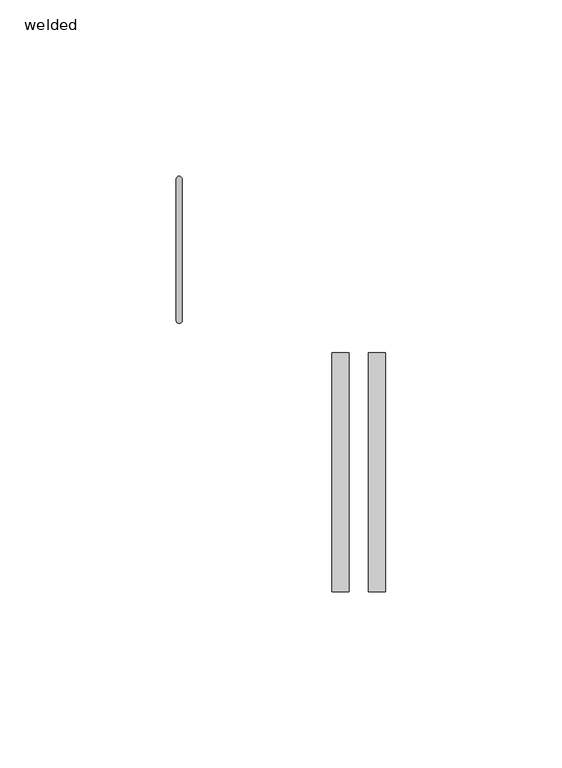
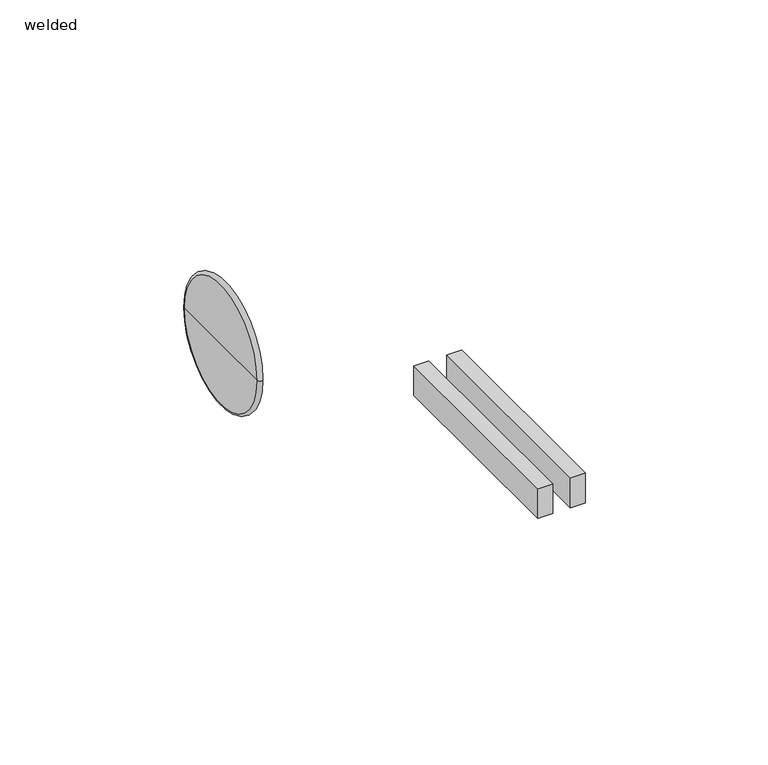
"""IFC4 building model written with IfcOpenShell, lengths in millimetres: pipe fitting geometry, NLRS_52_PIF_UN_HDPE weld_Akatherm : welded."""

import ifcopenshell
import ifcopenshell.guid

model = None  # the IFC model being written
_history = None  # IfcOwnerHistory: only IFC2X3 demands one
_inside = {}  # id of a spatial element -> (the spatial element, [elements in it])
_under = {}  # id of a project, library or spatial element -> (it, [spatial elements below it])
_declared = {}  # id of a project -> (the project, [libraries it declares])
_typed = {}  # id of a type object -> (the type object, [elements of that type])
_made_of = {}  # id of a material, layer set ... -> (it, [elements and type objects made of it])


def new_model(schema):
    """Start an empty IFC model of exactly this schema.

    Asked for "IFC4X3", IfcOpenShell would pick the latest addendum, in which some entities
    have other attributes; the version numbers below select the first issue.
    IFC2X3 requires an IfcOwnerHistory on every rooted entity: one is made here for all.
    """
    global model, _history
    if schema == "IFC4X3":
        model = ifcopenshell.file(schema_version=(4, 3, 0, 0))
    else:
        model = ifcopenshell.file(schema=schema)
    _inside.clear()
    _under.clear()
    _declared.clear()
    _typed.clear()
    _made_of.clear()
    _history = None
    if model.schema == "IFC2X3":
        org = make("IfcOrganization", Name="unknown")
        user = make(
            "IfcPersonAndOrganization",
            ThePerson=make("IfcPerson", FamilyName="unknown"),
            TheOrganization=org,
        )
        app = make(
            "IfcApplication",
            ApplicationDeveloper=org,
            Version="unknown",
            ApplicationFullName="unknown",
            ApplicationIdentifier="unknown",
        )
        _history = make(
            "IfcOwnerHistory",
            OwningUser=user,
            OwningApplication=app,
            ChangeAction="ADDED",
            CreationDate=0,
        )
    return model


def make(cls, **values):
    """One entity of the class cls with the attributes given. An attribute that is None is left unset."""
    return model.create_entity(
        cls, **{name: value for name, value in values.items() if value is not None}
    )


def rooted(cls, **values):
    """An entity with a GlobalId (a new one), such as an element, a storey or a relation."""
    return make(cls, GlobalId=ifcopenshell.guid.new(), OwnerHistory=_history, **values)


def si_unit(unit_type, name, prefix=None):
    """IfcSIUnit, for example si_unit("LENGTHUNIT", "METRE", prefix="MILLI")."""
    return make("IfcSIUnit", UnitType=unit_type, Prefix=prefix, Name=name)


def assignment(units):
    """IfcUnitAssignment: the units of a project."""
    return None if units is None else make("IfcUnitAssignment", Units=units)


def point(xyz):
    """IfcCartesianPoint."""
    return None if xyz is None else make("IfcCartesianPoint", Coordinates=xyz)


def direction(xyz):
    """IfcDirection."""
    return None if xyz is None else make("IfcDirection", DirectionRatios=xyz)


def frame(location, z_axis=None, x_axis=None):
    """IfcAxis2Placement3D, a coordinate frame: its origin and axes. An axis left out is left unset."""
    return make(
        "IfcAxis2Placement3D",
        Location=point(location),
        Axis=direction(z_axis),
        RefDirection=direction(x_axis),
    )


def origin():
    """The frame at (0, 0, 0) with its axes left unset."""
    return frame((0.0, 0.0, 0.0))


def place(relative_to, where):
    """IfcLocalPlacement: puts the frame where relative to a parent placement (None: the world)."""
    return make(
        "IfcLocalPlacement", PlacementRelTo=relative_to, RelativePlacement=where
    )


def context(
    kind, dimensions, precision=None, world=None, true_north=None, identifier=None
):
    """IfcGeometricRepresentationContext, for example the 3D "Model" context."""
    return make(
        "IfcGeometricRepresentationContext",
        ContextIdentifier=identifier,
        ContextType=kind,
        CoordinateSpaceDimension=dimensions,
        Precision=precision,
        WorldCoordinateSystem=world,
        TrueNorth=true_north,
    )


def project(units=None, contexts=None):
    """IfcProject with its units and contexts."""
    return rooted(
        "IfcProject",
        Name="project",
        RepresentationContexts=contexts,
        UnitsInContext=assignment(units),
    )


def spatial(cls, under=None, at=None, **own):
    """A site, building, storey or space (cls), placed at a placement, below another one or the project."""
    s = rooted(cls, ObjectPlacement=at, **own)
    if under is not None:
        _under.setdefault(under.id(), (under, []))[1].append(s)
    return s


def polyline(points):
    """IfcPolyline through the points."""
    return make("IfcPolyline", Points=[point(p) for p in points])


def circle_curve(where, radius):
    """IfcCircle in the frame where."""
    return make("IfcCircle", Position=where, Radius=radius)


def ellipse_curve(where, semi_axis1, semi_axis2):
    """IfcEllipse in the frame where."""
    return make(
        "IfcEllipse", Position=where, SemiAxis1=semi_axis1, SemiAxis2=semi_axis2
    )


def trimmed(basis, trim1, trim2, sense, master):
    """IfcTrimmedCurve: the piece of a basis curve between two trims."""
    return make(
        "IfcTrimmedCurve",
        BasisCurve=basis,
        Trim1=trim1,
        Trim2=trim2,
        SenseAgreement=sense,
        MasterRepresentation=master,
    )


def outline(outer, holes=None, kind="AREA"):
    """IfcArbitraryClosedProfileDef: a profile drawn as a closed curve; with holes, ...WithVoids."""
    if holes is None:
        return make("IfcArbitraryClosedProfileDef", ProfileType=kind, OuterCurve=outer)
    return make(
        "IfcArbitraryProfileDefWithVoids",
        ProfileType=kind,
        OuterCurve=outer,
        InnerCurves=holes,
    )


def extrude(swept, where, along, depth):
    """IfcExtrudedAreaSolid: the profile swept, set in the frame where, extruded along a direction by depth."""
    return make(
        "IfcExtrudedAreaSolid",
        SweptArea=swept,
        Position=where,
        ExtrudedDirection=direction(along),
        Depth=depth,
    )


def shape(context_of_items, identifier, shape_type, items):
    """IfcShapeRepresentation: the items that make up one representation, for example the "Body"."""
    return make(
        "IfcShapeRepresentation",
        ContextOfItems=context_of_items,
        RepresentationIdentifier=identifier,
        RepresentationType=shape_type,
        Items=items,
    )


def source(mapping_origin, context_of_items, identifier, shape_type, items):
    """IfcRepresentationMap: a shape defined once, which mapped items show again and again."""
    return make(
        "IfcRepresentationMap",
        MappingOrigin=mapping_origin,
        MappedRepresentation=shape(context_of_items, identifier, shape_type, items),
    )


def transform(
    local_origin,
    x_axis=None,
    y_axis=None,
    z_axis=None,
    scale=None,
    scale2=None,
    scale3=None,
    uniform=True,
):
    """IfcCartesianTransformationOperator3D, or its non-uniform kind. x_axis, y_axis, z_axis: its Axis1, 2, 3."""
    if uniform:
        return make(
            "IfcCartesianTransformationOperator3D",
            Axis1=direction(x_axis),
            Axis2=direction(y_axis),
            LocalOrigin=point(local_origin),
            Scale=scale,
            Axis3=direction(z_axis),
        )
    return make(
        "IfcCartesianTransformationOperator3DnonUniform",
        Axis1=direction(x_axis),
        Axis2=direction(y_axis),
        LocalOrigin=point(local_origin),
        Scale=scale,
        Axis3=direction(z_axis),
        Scale2=scale2,
        Scale3=scale3,
    )


def mapped(mapping_source, mapping_target):
    """IfcMappedItem: shows the shape of a source again, moved by a transform."""
    return make(
        "IfcMappedItem", MappingSource=mapping_source, MappingTarget=mapping_target
    )


def made_of(thing, what):
    """Note that an element or type object is made of a material, layer set ...; save() writes the relation."""
    if what is not None:
        _made_of.setdefault(what.id(), (what, []))[1].append(thing)
    return thing


def element(
    cls,
    number,
    at=None,
    inside=None,
    cuts=None,
    type_object=None,
    material=None,
    context=None,
    identifier="Body",
    shape_type=None,
    held_by="IfcProductDefinitionShape",
    body=None,
    shapes=None,
    **own,
):
    """One element of the class cls, such as IfcWall. Its Tag is "e" and its number.

    at: its placement. inside: the storey or other place that contains it. cuts: it is an
    opening in that element (IfcRelVoidsElement). A single representation is given by context,
    identifier, shape_type and body (its items); several are given by shapes. held_by: the class
    of the entity that holds the representations. save() writes the other relations.
    """
    e = rooted(cls, Tag="e%d" % number, ObjectPlacement=at, **own)
    if body is not None:
        shapes = [shape(context, identifier, shape_type, body)]
    if shapes is not None:
        e.Representation = make(held_by, Representations=shapes)
    if inside is not None:
        _inside.setdefault(inside.id(), (inside, []))[1].append(e)
    if cuts is not None:
        rooted(
            "IfcRelVoidsElement", RelatingBuildingElement=cuts, RelatedOpeningElement=e
        )
    if type_object is not None:
        _typed.setdefault(type_object.id(), (type_object, []))[1].append(e)
    return made_of(e, material)


def aggregate(whole, parts):
    """IfcRelAggregates: a whole, such as a stair, and the parts it consists of."""
    return rooted("IfcRelAggregates", RelatingObject=whole, RelatedObjects=parts)


def save(model, path):
    """Write the relations noted so far, then the file.

    IfcRelAggregates (storeys below a building ...), IfcRelContainedInSpatialStructure (elements
    in a storey), IfcRelDefinesByType, IfcRelAssociatesMaterial and IfcRelDeclares: one each for
    every whole, place, type object, material and project.
    """
    for whole, parts in _under.values():
        aggregate(whole, parts)
    for where, things in _inside.values():
        rooted(
            "IfcRelContainedInSpatialStructure",
            RelatedElements=things,
            RelatingStructure=where,
        )
    for kind, things in _typed.values():
        rooted("IfcRelDefinesByType", RelatedObjects=things, RelatingType=kind)
    for what, things in _made_of.values():
        rooted("IfcRelAssociatesMaterial", RelatedObjects=things, RelatingMaterial=what)
    for by, libraries in _declared.values():
        rooted("IfcRelDeclares", RelatingContext=by, RelatedDefinitions=libraries)
    model.write(path)


def plane_surface(at):
    """IfcPlane: the flat surface through the origin of the frame at, square to its z axis."""
    return make("IfcPlane", Position=at)


def revolved_surface(curve, axis_point, axis_direction):
    """IfcSurfaceOfRevolution: the curve turned about the line through axis_point along axis_direction."""
    return make(
        "IfcSurfaceOfRevolution",
        SweptCurve=make("IfcArbitraryOpenProfileDef", ProfileType="CURVE", Curve=curve),
        AxisPosition=make("IfcAxis1Placement", Location=point(axis_point), Axis=direction(axis_direction)),
    )


def advanced_brep(points, edges, surfaces, faces):
    """IfcAdvancedBrep: a solid bounded by faces that lie on surfaces and meet in shared edges.

    An edge is (start, end): straight between two places in points (the first is 0);
    or (start, end, curve); or (start, end, curve, False) where it runs against its curve.
    A face is (place in surfaces, loops), or (place, loops, False) where it looks against
    its surface's normal. A loop lists edges by number (the first is 1), with a minus sign
    where the edge is run from its end to its start. The first loop is the outer one.
    """
    corners = [point(p) for p in points]
    vertices = [make("IfcVertexPoint", VertexGeometry=c) for c in corners]
    made = []
    for start, end, *more in edges:
        made.append(
            make(
                "IfcEdgeCurve",
                EdgeStart=vertices[start],
                EdgeEnd=vertices[end],
                EdgeGeometry=more[0] if more else make("IfcPolyline", Points=[corners[start], corners[end]]),
                SameSense=more[1] if len(more) > 1 else True,
            )
        )
    hull = []
    for where, loops, *sense in faces:
        bounds = []
        for j, loop in enumerate(loops):
            ring = [make("IfcOrientedEdge", EdgeElement=made[abs(k) - 1], Orientation=k > 0) for k in loop]
            bounds.append(
                make(
                    "IfcFaceOuterBound" if j == 0 else "IfcFaceBound",
                    Bound=make("IfcEdgeLoop", EdgeList=ring),
                    Orientation=True,
                )
            )
        hull.append(make("IfcAdvancedFace", Bounds=bounds, FaceSurface=surfaces[where], SameSense=sense[0] if sense else True))
    return make("IfcAdvancedBrep", Outer=make("IfcClosedShell", CfsFaces=hull))


def welded_63566782(model_context):
    return source(origin(), model_context, "Body", "SolidModel", [
        extrude(outline(polyline([(42.5311847, -96.9421922), (42.5311847, -29.143993), (47.3087456, -29.143993), (47.3087456, -96.9421922), (42.5311847, -96.9421922)])), frame((0.0, 0.0, -15.0), z_axis=(0.0, 0.0, 1.0), x_axis=(1.0, 0.0, 0.0)), (0.0, 0.0, 1.0), 10.0),
        extrude(outline(polyline([(52.9005519, -96.9421922), (52.9005519, -29.143993), (57.6781127, -29.143993), (57.6781127, -96.9421922), (52.9005519, -96.9421922)])), frame((0.0, 0.0, -15.0), z_axis=(0.0, 0.0, 1.0), x_axis=(1.0, 0.0, 0.0)), (0.0, 0.0, 1.0), 10.0),
        advanced_brep(
        [(-1.7, -20.0, 0.0), (-1.7, 20.0, 0.0), (0.0, 20.0, 0.0), (0.0, -20.0, 0.0), (-1.7, 0.0, 0.0), (0.0, 0.0, 0.0)],
        [
            (0, 1, circle_curve(frame((-1.7, 0.0, 0.0), z_axis=(1.0, 0.0, 0.0), x_axis=(0.0, 1.0, 0.0)), 20.0)),
            (1, 2, circle_curve(frame((-0.85, 20.0, 0.0), z_axis=(0.0, 0.0, -1.0), x_axis=(1.0, 0.0, 0.0)), 0.85)),
            (2, 3, circle_curve(frame((0.0, 0.0, 0.0), z_axis=(-1.0, 0.0, 0.0), x_axis=(0.0, 1.0, 0.0)), 20.0)),
            (3, 0, circle_curve(frame((-0.85, -20.0, 0.0), z_axis=(0.0, 0.0, -1.0), x_axis=(1.0, 0.0, 0.0)), 0.85)),
            (1, 0, circle_curve(frame((-1.7, 0.0, 0.0), z_axis=(1.0, 0.0, 0.0), x_axis=(0.0, 1.0, 0.0)), 20.0)),
            (3, 2, circle_curve(frame((0.0, 0.0, 0.0), z_axis=(-1.0, 0.0, 0.0), x_axis=(0.0, 1.0, 0.0)), 20.0)),
            (4, 1),
            (0, 4),
            (2, 5),
            (5, 3),
        ],
        [
            revolved_surface(trimmed(ellipse_curve(frame((-0.85, 20.0, 0.0), z_axis=(0.0, 0.0, 1.0), x_axis=(1.0, 0.0, 0.0)), 0.85, 0.85), [point((0.0, 20.0, 0.0))], [point((-1.7, 20.0, 0.0))], True, "CARTESIAN"), (-39.85, 0.0, 0.0), (-1.0, 0.0, 0.0)),
            plane_surface(frame((-1.7, 0.0, 0.0), z_axis=(-1.0, 0.0, 0.0), x_axis=(0.0, 1.0, 0.0))),
            plane_surface(frame((0.0, 0.0, 0.0), z_axis=(1.0, 0.0, 0.0), x_axis=(0.0, 1.0, 0.0))),
        ],
        [
            (0, [[1, 2, 3, 4]]),
            (0, [[5, -4, 6, -2]]),
            (1, [[7, -1, 8]]),
            (1, [[-8, -5, -7]]),
            (2, [[-3, 9, 10]]),
            (2, [[-6, -10, -9]]),
        ],
    ),
    ])


if __name__ == "__main__":
    model = new_model("IFC4")
    model_context = context("Model", 3, world=origin())
    ifc_project = project(units=[si_unit("LENGTHUNIT", "METRE", prefix="MILLI")], contexts=[model_context])
    site = spatial("IfcSite", under=ifc_project)
    building = spatial("IfcBuilding", under=site)
    placement = place(None, origin())
    welded_shape = welded_63566782(model_context)
    element("IfcPipeFitting", 1, ObjectType="NLRS_52_PIF_UN_HDPE weld_Akatherm : welded", at=placement, inside=building, context=model_context, shape_type="MappedRepresentation", body=[
        mapped(welded_shape, transform((0.0, 0.0, 0.0), x_axis=(1.0, 0.0, 0.0), y_axis=(0.0, 1.0, 0.0), z_axis=(0.0, 0.0, 1.0))),
    ])
    save(model, "model.ifc")
